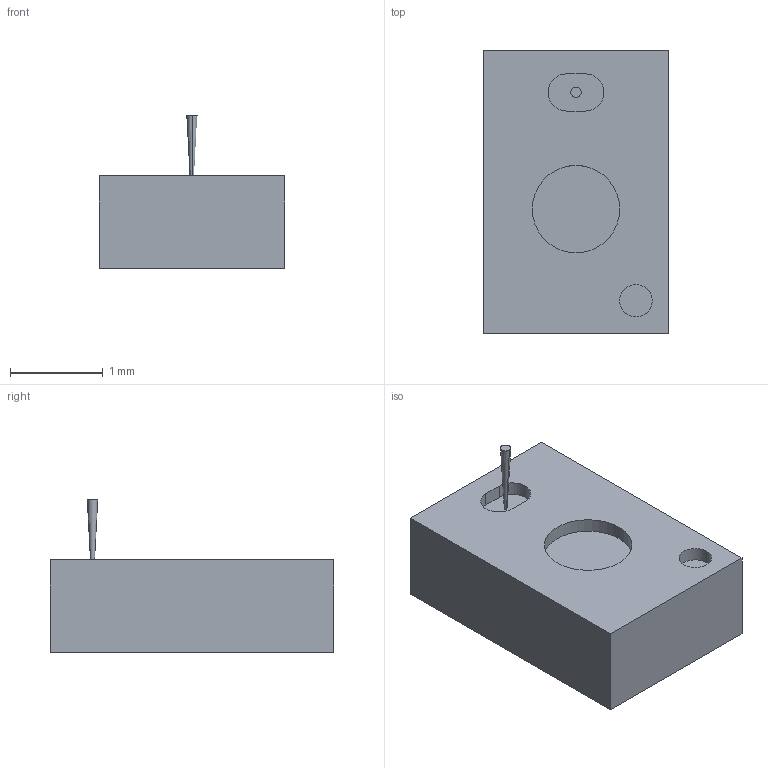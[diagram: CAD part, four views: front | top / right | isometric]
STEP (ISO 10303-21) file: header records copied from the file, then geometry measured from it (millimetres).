
FILE_DESCRIPTION((''),'2;1');
FILE_NAME('CM36687S_IR3','2016-05-04T',('mhsu4'),(''),'PRO/ENGINEER BY PARAMETRIC TECHNOLOGY CORPORATION, 2014320','PRO/ENGINEER BY PARAMETRIC TECHNOLOGY CORPORATION, 2014320','');
FILE_SCHEMA(('CONFIG_CONTROL_DESIGN'));
Length unit declared in the file: millimetre
Products named in the file (1): CM36687S_IR3
Bounding box: 2 x 3.05 x 1.65 mm (x, y, z)
Volume: 6 mm3; surface area: 23.3 mm2
Topology: 1 solids, 1 shells, 20 faces, 79 edges, 68 vertices
Faces by surface type: plane 12, cylinder 6, cone 2
Entity records: 824 total; most frequent: DIRECTION 139, CARTESIAN_POINT 130, ORIENTED_EDGE 88, VECTOR 61, LINE 61, EDGE_CURVE 44, AXIS2_PLACEMENT_3D 39, TRIMMED_CURVE 35
